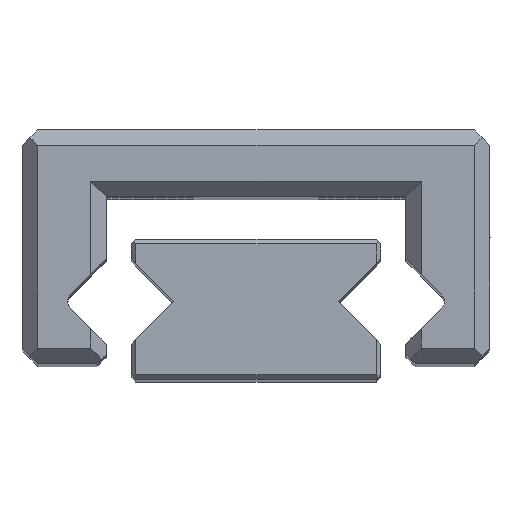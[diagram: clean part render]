
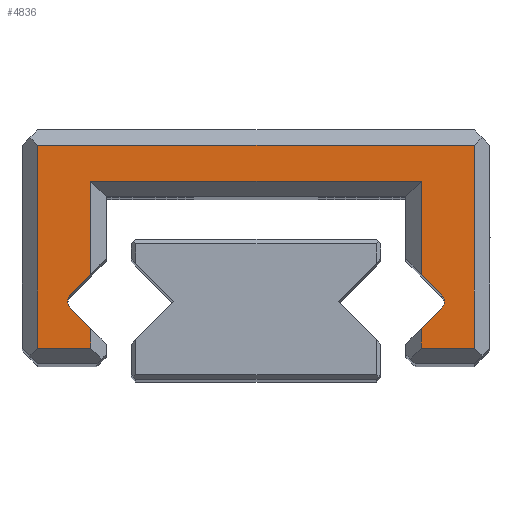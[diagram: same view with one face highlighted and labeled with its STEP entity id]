
A CAD part, top view. The second image highlights one B-rep face of the part: STEP entity #4836.
In plain terms, the highlighted planar face has unit normal (0, 0, 1).
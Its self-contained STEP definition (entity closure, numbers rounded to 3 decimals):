
#249 = CARTESIAN_POINT ( 'NONE',  ( -5.1, 0.5, 25. ) ) ;
#251 = DIRECTION ( 'NONE',  ( 1., 0., 0. ) ) ;
#252 = CARTESIAN_POINT ( 'NONE',  ( -7., 0.5, 25. ) ) ;
#253 = DIRECTION ( 'NONE',  ( 0., -1., 0. ) ) ;
#254 = LINE ( 'NONE', #255, #605 ) ;
#255 = CARTESIAN_POINT ( 'NONE',  ( -7., 7., 25. ) ) ;
#256 = DIRECTION ( 'NONE',  ( -1., 0., 0. ) ) ;
#257 = LINE ( 'NONE', #258, #595 ) ;
#258 = CARTESIAN_POINT ( 'NONE',  ( 7., 7., 25. ) ) ;
#259 = DIRECTION ( 'NONE',  ( 0., 1., 0. ) ) ;
#260 = LINE ( 'NONE', #261, #520 ) ;
#261 = CARTESIAN_POINT ( 'NONE',  ( 7., 0.5, 25. ) ) ;
#262 = DIRECTION ( 'NONE',  ( 1., 0., 0. ) ) ;
#263 = LINE ( 'NONE', #264, #602 ) ;
#264 = CARTESIAN_POINT ( 'NONE',  ( 5.3, 0.3, 25. ) ) ;
#265 = DIRECTION ( 'NONE',  ( 0., -1., 0. ) ) ;
#335 = LINE ( 'NONE', #336, #548 ) ;
#336 = CARTESIAN_POINT ( 'NONE',  ( 4.8, 0.63, 25. ) ) ;
#337 = DIRECTION ( 'NONE',  ( -0.705, -0.709, 0. ) ) ;
#351 = CARTESIAN_POINT ( 'NONE',  ( 5.74, 2., 25. ) ) ;
#352 = DIRECTION ( 'NONE',  ( 0., 0., -1. ) ) ;
#353 = DIRECTION ( 'NONE',  ( -1., 0., 0. ) ) ;
#355 = LINE ( 'NONE', #363, #567 ) ;
#363 = CARTESIAN_POINT ( 'NONE',  ( 5.953, 2.212, 25. ) ) ;
#364 = DIRECTION ( 'NONE',  ( 0.705, -0.709, 0. ) ) ;
#404 = LINE ( 'NONE', #405, #547 ) ;
#405 = CARTESIAN_POINT ( 'NONE',  ( -5.953, 2.212, 25. ) ) ;
#406 = DIRECTION ( 'NONE',  ( 0.705, 0.709, 0. ) ) ;
#427 = LINE ( 'NONE', #433, #617 ) ;
#428 = CARTESIAN_POINT ( 'NONE',  ( -5.74, 2., 25. ) ) ;
#429 = DIRECTION ( 'NONE',  ( 0., 0., -1. ) ) ;
#430 = DIRECTION ( 'NONE',  ( 1., 0., 0. ) ) ;
#433 = CARTESIAN_POINT ( 'NONE',  ( -4.8, 0.63, 25. ) ) ;
#434 = DIRECTION ( 'NONE',  ( -0.705, 0.709, 0. ) ) ;
#520 = VECTOR ( 'NONE', #262, 1000. ) ;
#527 = VECTOR ( 'NONE', #251, 1000. ) ;
#547 = VECTOR ( 'NONE', #406, 1000. ) ;
#548 = VECTOR ( 'NONE', #337, 1000. ) ;
#556 = CIRCLE ( 'NONE', #576, 0.3 ) ;
#566 = CIRCLE ( 'NONE', #608, 0.3 ) ;
#567 = VECTOR ( 'NONE', #364, 1000. ) ;
#576 = AXIS2_PLACEMENT_3D ( 'NONE', #351, #352, #353 ) ;
#583 = VECTOR ( 'NONE', #253, 1000. ) ;
#595 = VECTOR ( 'NONE', #259, 1000. ) ;
#602 = VECTOR ( 'NONE', #265, 1000. ) ;
#605 = VECTOR ( 'NONE', #256, 1000. ) ;
#608 = AXIS2_PLACEMENT_3D ( 'NONE', #428, #429, #430 ) ;
#617 = VECTOR ( 'NONE', #434, 1000. ) ;
#832 = VECTOR ( 'NONE', #8125, 1000. ) ;
#1126 = EDGE_CURVE ( 'NONE', #2510, #11049, #4511, .T. ) ;
#1127 = EDGE_CURVE ( 'NONE', #2479, #2510, #4492, .T. ) ;
#1128 = EDGE_CURVE ( 'NONE', #2449, #2479, #254, .T. ) ;
#1129 = EDGE_CURVE ( 'NONE', #2435, #2449, #257, .T. ) ;
#1130 = EDGE_CURVE ( 'NONE', #5179, #2435, #260, .T. ) ;
#1131 = EDGE_CURVE ( 'NONE', #2319, #5179, #263, .T. ) ;
#1155 = EDGE_CURVE ( 'NONE', #5183, #2319, #335, .T. ) ;
#1160 = EDGE_CURVE ( 'NONE', #11009, #5183, #556, .T. ) ;
#1164 = EDGE_CURVE ( 'NONE', #11039, #11009, #355, .T. ) ;
#1175 = EDGE_CURVE ( 'NONE', #5204, #5178, #404, .T. ) ;
#1182 = EDGE_CURVE ( 'NONE', #2478, #5191, #566, .T. ) ;
#1184 = EDGE_CURVE ( 'NONE', #11022, #2478, #427, .T. ) ;
#1558 = EDGE_LOOP ( 'NONE', ( #4323, #4385, #4369, #4371, #4354, #4311, #4349, #4397, #4389, #4379, #4372, #4363, #4362, #4361, #4358, #4353, #4352 ) ) ;
#2319 = VERTEX_POINT ( 'NONE', #10538 ) ;
#2435 = VERTEX_POINT ( 'NONE', #10654 ) ;
#2449 = VERTEX_POINT ( 'NONE', #10668 ) ;
#2478 = VERTEX_POINT ( 'NONE', #9564 ) ;
#2479 = VERTEX_POINT ( 'NONE', #9565 ) ;
#2504 = VERTEX_POINT ( 'NONE', #9590 ) ;
#2510 = VERTEX_POINT ( 'NONE', #9596 ) ;
#3359 = VECTOR ( 'NONE', #8128, 1000. ) ;
#3360 = VECTOR ( 'NONE', #8131, 1000. ) ;
#3757 = CARTESIAN_POINT ( 'NONE',  ( -5.3, 5.85, 25. ) ) ;
#3787 = CARTESIAN_POINT ( 'NONE',  ( 5.953, 2.212, 25. ) ) ;
#3797 = CARTESIAN_POINT ( 'NONE',  ( -5.3, 1.132, 25. ) ) ;
#3814 = CARTESIAN_POINT ( 'NONE',  ( 5.3, 2.868, 25. ) ) ;
#3822 = CARTESIAN_POINT ( 'NONE',  ( -5.3, 0.5, 25. ) ) ;
#4311 = ORIENTED_EDGE ( 'NONE', *, *, #1127, .T. ) ;
#4323 = ORIENTED_EDGE ( 'NONE', *, *, #1155, .T. ) ;
#4349 = ORIENTED_EDGE ( 'NONE', *, *, #1126, .T. ) ;
#4352 = ORIENTED_EDGE ( 'NONE', *, *, #1160, .T. ) ;
#4353 = ORIENTED_EDGE ( 'NONE', *, *, #1164, .T. ) ;
#4354 = ORIENTED_EDGE ( 'NONE', *, *, #1128, .T. ) ;
#4358 = ORIENTED_EDGE ( 'NONE', *, *, #12385, .T. ) ;
#4361 = ORIENTED_EDGE ( 'NONE', *, *, #12386, .T. ) ;
#4362 = ORIENTED_EDGE ( 'NONE', *, *, #12387, .T. ) ;
#4363 = ORIENTED_EDGE ( 'NONE', *, *, #1175, .T. ) ;
#4369 = ORIENTED_EDGE ( 'NONE', *, *, #1130, .T. ) ;
#4371 = ORIENTED_EDGE ( 'NONE', *, *, #1129, .T. ) ;
#4372 = ORIENTED_EDGE ( 'NONE', *, *, #12411, .T. ) ;
#4379 = ORIENTED_EDGE ( 'NONE', *, *, #1182, .T. ) ;
#4385 = ORIENTED_EDGE ( 'NONE', *, *, #1131, .T. ) ;
#4389 = ORIENTED_EDGE ( 'NONE', *, *, #1184, .T. ) ;
#4397 = ORIENTED_EDGE ( 'NONE', *, *, #12483, .T. ) ;
#4492 = LINE ( 'NONE', #252, #583 ) ;
#4511 = LINE ( 'NONE', #249, #527 ) ;
#4836 = ADVANCED_FACE ( 'NONE', ( #7629 ), #7630, .T. ) ;
#5178 = VERTEX_POINT ( 'NONE', #7763 ) ;
#5179 = VERTEX_POINT ( 'NONE', #7764 ) ;
#5183 = VERTEX_POINT ( 'NONE', #7768 ) ;
#5191 = VERTEX_POINT ( 'NONE', #7774 ) ;
#5204 = VERTEX_POINT ( 'NONE', #7787 ) ;
#6773 = CIRCLE ( 'NONE', #6776, 0.3 ) ;
#6776 = AXIS2_PLACEMENT_3D ( 'NONE', #8243, #8244, #8245 ) ;
#6844 = VECTOR ( 'NONE', #8639, 1000. ) ;
#7085 = AXIS2_PLACEMENT_3D ( 'NONE', #7632, #7633, #7634 ) ;
#7629 = FACE_OUTER_BOUND ( 'NONE', #1558, .T. ) ;
#7630 = PLANE ( 'NONE',  #7085 ) ;
#7632 = CARTESIAN_POINT ( 'NONE',  ( -5.74, 2., 25. ) ) ;
#7633 = DIRECTION ( 'NONE',  ( 0., 0., 1. ) ) ;
#7634 = DIRECTION ( 'NONE',  ( 1., 0., 0. ) ) ;
#7763 = CARTESIAN_POINT ( 'NONE',  ( -5.3, 2.868, 25. ) ) ;
#7764 = CARTESIAN_POINT ( 'NONE',  ( 5.3, 0.5, 25. ) ) ;
#7768 = CARTESIAN_POINT ( 'NONE',  ( 5.953, 1.788, 25. ) ) ;
#7774 = CARTESIAN_POINT ( 'NONE',  ( -6.04, 2., 25. ) ) ;
#7787 = CARTESIAN_POINT ( 'NONE',  ( -5.953, 2.212, 25. ) ) ;
#8118 = LINE ( 'NONE', #8124, #832 ) ;
#8124 = CARTESIAN_POINT ( 'NONE',  ( 5.3, 3.37, 25. ) ) ;
#8125 = DIRECTION ( 'NONE',  ( 0., -1., 0. ) ) ;
#8126 = LINE ( 'NONE', #8127, #3359 ) ;
#8127 = CARTESIAN_POINT ( 'NONE',  ( 4.8, 5.85, 25. ) ) ;
#8128 = DIRECTION ( 'NONE',  ( 1., 0., 0. ) ) ;
#8129 = LINE ( 'NONE', #8130, #3360 ) ;
#8130 = CARTESIAN_POINT ( 'NONE',  ( -5.3, 5.35, 25. ) ) ;
#8131 = DIRECTION ( 'NONE',  ( 0., 1., 0. ) ) ;
#8243 = CARTESIAN_POINT ( 'NONE',  ( -5.74, 2., 25. ) ) ;
#8244 = DIRECTION ( 'NONE',  ( 0., 0., -1. ) ) ;
#8245 = DIRECTION ( 'NONE',  ( 1., 0., 0. ) ) ;
#8637 = LINE ( 'NONE', #8638, #6844 ) ;
#8638 = CARTESIAN_POINT ( 'NONE',  ( -5.3, 0.63, 25. ) ) ;
#8639 = DIRECTION ( 'NONE',  ( 0., 1., 0. ) ) ;
#9564 = CARTESIAN_POINT ( 'NONE',  ( -5.953, 1.788, 25. ) ) ;
#9565 = CARTESIAN_POINT ( 'NONE',  ( -7., 7., 25. ) ) ;
#9590 = CARTESIAN_POINT ( 'NONE',  ( 5.3, 5.85, 25. ) ) ;
#9596 = CARTESIAN_POINT ( 'NONE',  ( -7., 0.5, 25. ) ) ;
#10538 = CARTESIAN_POINT ( 'NONE',  ( 5.3, 1.132, 25. ) ) ;
#10654 = CARTESIAN_POINT ( 'NONE',  ( 7., 0.5, 25. ) ) ;
#10668 = CARTESIAN_POINT ( 'NONE',  ( 7., 7., 25. ) ) ;
#11009 = VERTEX_POINT ( 'NONE', #3787 ) ;
#11012 = VERTEX_POINT ( 'NONE', #3757 ) ;
#11022 = VERTEX_POINT ( 'NONE', #3797 ) ;
#11039 = VERTEX_POINT ( 'NONE', #3814 ) ;
#11049 = VERTEX_POINT ( 'NONE', #3822 ) ;
#12385 = EDGE_CURVE ( 'NONE', #2504, #11039, #8118, .T. ) ;
#12386 = EDGE_CURVE ( 'NONE', #11012, #2504, #8126, .T. ) ;
#12387 = EDGE_CURVE ( 'NONE', #5178, #11012, #8129, .T. ) ;
#12411 = EDGE_CURVE ( 'NONE', #5191, #5204, #6773, .T. ) ;
#12483 = EDGE_CURVE ( 'NONE', #11049, #11022, #8637, .T. ) ;
